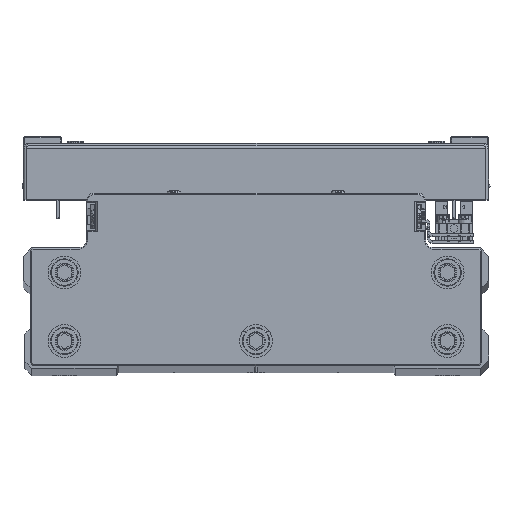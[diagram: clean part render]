
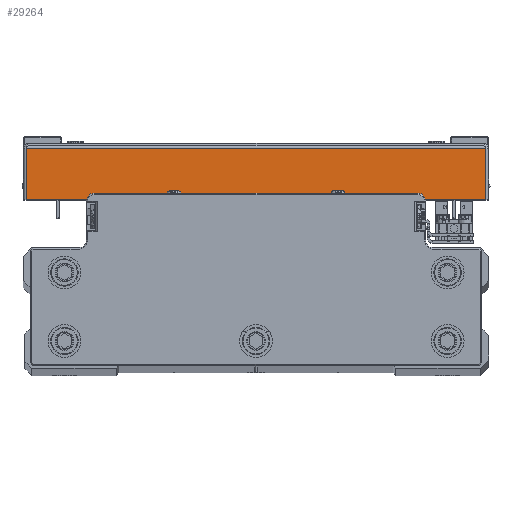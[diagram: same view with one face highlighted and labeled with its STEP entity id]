
A CAD part, top view. The second image highlights one B-rep face of the part: STEP entity #29264.
In plain terms, the highlighted planar face has unit normal (0, 0, 1) as drawn and (1, 0, 0) by its records, which use the part's own axes.
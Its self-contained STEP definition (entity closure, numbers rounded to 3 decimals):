
#684 = EDGE_LOOP ( 'NONE', ( #40049, #10233, #32102, #8795 ) ) ;
#1609 = VERTEX_POINT ( 'NONE', #22497 ) ;
#5391 = DIRECTION ( 'NONE',  ( 0., 0., 1. ) ) ;
#5468 = EDGE_CURVE ( 'NONE', #1609, #37996, #23128, .T. ) ;
#7468 = DIRECTION ( 'NONE',  ( 0., 1., 0. ) ) ;
#8795 = ORIENTED_EDGE ( 'NONE', *, *, #23628, .F. ) ;
#10189 = LINE ( 'NONE', #24418, #36688 ) ;
#10233 = ORIENTED_EDGE ( 'NONE', *, *, #17267, .T. ) ;
#12732 = LINE ( 'NONE', #26954, #42482 ) ;
#13351 = DIRECTION ( 'NONE',  ( -1., 0., 0. ) ) ;
#16859 = FACE_OUTER_BOUND ( 'NONE', #684, .T. ) ;
#17267 = EDGE_CURVE ( 'NONE', #22968, #1609, #10189, .T. ) ;
#18477 = VECTOR ( 'NONE', #5391, 1000. ) ;
#22497 = CARTESIAN_POINT ( 'NONE',  ( 110., 19.5, -83.929 ) ) ;
#22968 = VERTEX_POINT ( 'NONE', #30409 ) ;
#23128 = LINE ( 'NONE', #37361, #18477 ) ;
#23628 = EDGE_CURVE ( 'NONE', #41355, #37996, #25184, .T. ) ;
#24418 = CARTESIAN_POINT ( 'NONE',  ( 110., 0., -83.929 ) ) ;
#25184 = LINE ( 'NONE', #39424, #45831 ) ;
#25210 = AXIS2_PLACEMENT_3D ( 'NONE', #45323, #13351, #27571 ) ;
#26954 = CARTESIAN_POINT ( 'NONE',  ( 110., 1., 85. ) ) ;
#27571 = DIRECTION ( 'NONE',  ( 0., -1., 0. ) ) ;
#29264 = ADVANCED_FACE ( 'NONE', ( #16859 ), #31073, .F. ) ;
#30397 = EDGE_CURVE ( 'NONE', #22968, #41355, #12732, .T. ) ;
#30409 = CARTESIAN_POINT ( 'NONE',  ( 110., 1., -83.929 ) ) ;
#31073 = PLANE ( 'NONE',  #25210 ) ;
#31604 = CARTESIAN_POINT ( 'NONE',  ( 110., 19.5, 83.929 ) ) ;
#32102 = ORIENTED_EDGE ( 'NONE', *, *, #5468, .T. ) ;
#32970 = CARTESIAN_POINT ( 'NONE',  ( 110., 1., 83.929 ) ) ;
#36688 = VECTOR ( 'NONE', #38645, 1000. ) ;
#37361 = CARTESIAN_POINT ( 'NONE',  ( 110., 19.5, 0. ) ) ;
#37996 = VERTEX_POINT ( 'NONE', #31604 ) ;
#38645 = DIRECTION ( 'NONE',  ( 0., 1., 0. ) ) ;
#39424 = CARTESIAN_POINT ( 'NONE',  ( 110., 0., 83.929 ) ) ;
#40049 = ORIENTED_EDGE ( 'NONE', *, *, #30397, .F. ) ;
#41199 = DIRECTION ( 'NONE',  ( 0., 0., 1. ) ) ;
#41355 = VERTEX_POINT ( 'NONE', #32970 ) ;
#42482 = VECTOR ( 'NONE', #41199, 1000. ) ;
#45323 = CARTESIAN_POINT ( 'NONE',  ( 110., 0., 0. ) ) ;
#45831 = VECTOR ( 'NONE', #7468, 1000. ) ;
